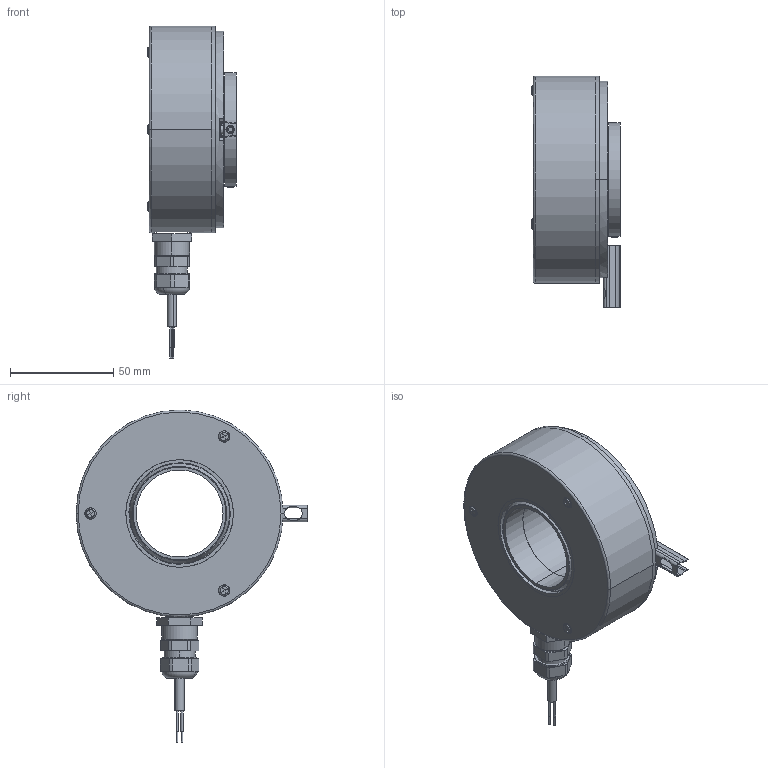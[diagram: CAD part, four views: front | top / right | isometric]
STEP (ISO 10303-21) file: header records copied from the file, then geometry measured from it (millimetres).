
FILE_DESCRIPTION (( 'STEP AP214' ), '1' );
FILE_NAME ('A020.31X1.XXXX.STEP', '2007-09-05T08:15:32', ( 'DanneckerS' ), ( ' ' ), 'SwSTEP 2.0', 'SolidWorks 2007', '' );
FILE_SCHEMA (( 'AUTOMOTIVE_DESIGN' ));
Length unit declared in the file: millimetre
Products named in the file (1): A020.31X1.XXXX
Bounding box: 42.6 x 112 x 160.4 mm (x, y, z)
Surface area: 57488 mm2 (no closed solid volume)
Topology: 0 solids, 24 shells, 270 faces, 750 edges, 509 vertices
Faces by surface type: plane 118, cylinder 108, cone 30, torus 14
Entity records: 12044 total; most frequent: CARTESIAN_POINT 1905, DIRECTION 1616, ORIENTED_EDGE 1319, EDGE_CURVE 748, AXIS2_PLACEMENT_3D 624, VERTEX_POINT 507, VECTOR 368, LINE 368
